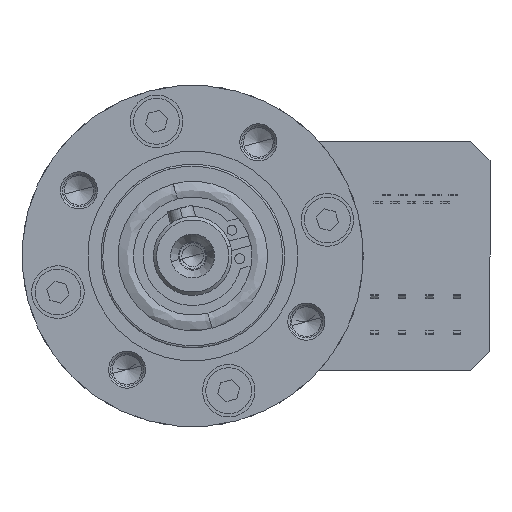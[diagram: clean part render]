
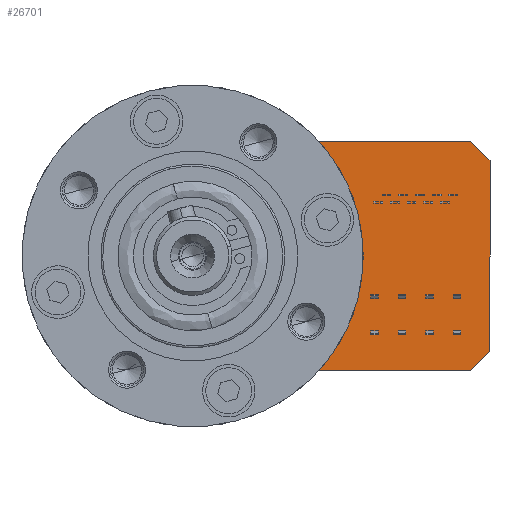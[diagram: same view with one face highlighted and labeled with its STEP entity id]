
A CAD part, left-side view. The second image highlights one B-rep face of the part: STEP entity #26701.
In plain terms, the highlighted planar face has unit normal (-1, 0, 0).
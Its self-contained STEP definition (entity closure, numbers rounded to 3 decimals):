
#192 = VERTEX_POINT ( 'NONE', #2262 ) ;
#945 = DIRECTION ( 'NONE',  ( 0., 0., -1. ) ) ;
#1487 = CARTESIAN_POINT ( 'NONE',  ( 4., -13.332, 17.5 ) ) ;
#1910 = DIRECTION ( 'NONE',  ( 1., 0., 0. ) ) ;
#2262 = CARTESIAN_POINT ( 'NONE',  ( 4., -45.3, -14.5 ) ) ;
#2799 = EDGE_CURVE ( 'NONE', #27935, #3368, #31794, .T. ) ;
#3368 = VERTEX_POINT ( 'NONE', #18652 ) ;
#5576 = VECTOR ( 'NONE', #33351, 1000. ) ;
#6492 = ORIENTED_EDGE ( 'NONE', *, *, #25228, .F. ) ;
#6779 = VECTOR ( 'NONE', #19086, 1000. ) ;
#8973 = CARTESIAN_POINT ( 'NONE',  ( 4., -42.3, 17.5 ) ) ;
#9923 = FACE_OUTER_BOUND ( 'NONE', #17660, .T. ) ;
#10685 = EDGE_CURVE ( 'NONE', #192, #26167, #28160, .T. ) ;
#11434 = DIRECTION ( 'NONE',  ( -1., 0., 0. ) ) ;
#11891 = EDGE_CURVE ( 'NONE', #21859, #27935, #12701, .T. ) ;
#12701 = LINE ( 'NONE', #30679, #28065 ) ;
#12743 = VECTOR ( 'NONE', #945, 1000. ) ;
#14855 = ORIENTED_EDGE ( 'NONE', *, *, #11891, .F. ) ;
#16323 = CARTESIAN_POINT ( 'NONE',  ( 4., -11.426, -17.5 ) ) ;
#16539 = CARTESIAN_POINT ( 'NONE',  ( 4., -13.332, -17.5 ) ) ;
#17660 = EDGE_LOOP ( 'NONE', ( #14855, #31478, #6492, #21550, #30477, #29756 ) ) ;
#18278 = PLANE ( 'NONE',  #25857 ) ;
#18652 = CARTESIAN_POINT ( 'NONE',  ( 4., -45.3, 14.5 ) ) ;
#19086 = DIRECTION ( 'NONE',  ( 0., 1., 0. ) ) ;
#20449 = EDGE_CURVE ( 'NONE', #22121, #21859, #25828, .T. ) ;
#21016 = DIRECTION ( 'NONE',  ( 0., 0., -1. ) ) ;
#21550 = ORIENTED_EDGE ( 'NONE', *, *, #10685, .F. ) ;
#21859 = VERTEX_POINT ( 'NONE', #1487 ) ;
#22121 = VERTEX_POINT ( 'NONE', #16539 ) ;
#22837 = CARTESIAN_POINT ( 'NONE',  ( 4., -45.3, 14.5 ) ) ;
#24205 = EDGE_CURVE ( 'NONE', #3368, #192, #34468, .T. ) ;
#24610 = VECTOR ( 'NONE', #29749, 1000. ) ;
#25105 = DIRECTION ( 'NONE',  ( 0., -1., 0. ) ) ;
#25228 = EDGE_CURVE ( 'NONE', #26167, #22121, #26851, .T. ) ;
#25828 = CIRCLE ( 'NONE', #25908, 22. ) ;
#25857 = AXIS2_PLACEMENT_3D ( 'NONE', #31787, #1910, #21016 ) ;
#25908 = AXIS2_PLACEMENT_3D ( 'NONE', #27762, #11434, #30499 ) ;
#26167 = VERTEX_POINT ( 'NONE', #26265 ) ;
#26265 = CARTESIAN_POINT ( 'NONE',  ( 4., -42.3, -17.5 ) ) ;
#26701 = ADVANCED_FACE ( 'NONE', ( #9923 ), #18278, .F. ) ;
#26851 = LINE ( 'NONE', #16323, #6779 ) ;
#27762 = CARTESIAN_POINT ( 'NONE',  ( 4., 0., 0. ) ) ;
#27935 = VERTEX_POINT ( 'NONE', #8973 ) ;
#28065 = VECTOR ( 'NONE', #25105, 1000. ) ;
#28160 = LINE ( 'NONE', #30634, #5576 ) ;
#29749 = DIRECTION ( 'NONE',  ( 0., -0.707, -0.707 ) ) ;
#29756 = ORIENTED_EDGE ( 'NONE', *, *, #2799, .F. ) ;
#30477 = ORIENTED_EDGE ( 'NONE', *, *, #24205, .F. ) ;
#30499 = DIRECTION ( 'NONE',  ( 0., 0., 1. ) ) ;
#30634 = CARTESIAN_POINT ( 'NONE',  ( 4., -42.3, -17.5 ) ) ;
#30679 = CARTESIAN_POINT ( 'NONE',  ( 4., -11.426, 17.5 ) ) ;
#31478 = ORIENTED_EDGE ( 'NONE', *, *, #20449, .F. ) ;
#31787 = CARTESIAN_POINT ( 'NONE',  ( 4., 0., 0. ) ) ;
#31794 = LINE ( 'NONE', #35194, #24610 ) ;
#33351 = DIRECTION ( 'NONE',  ( 0., 0.707, -0.707 ) ) ;
#34468 = LINE ( 'NONE', #22837, #12743 ) ;
#35194 = CARTESIAN_POINT ( 'NONE',  ( 4., -42.3, 17.5 ) ) ;
